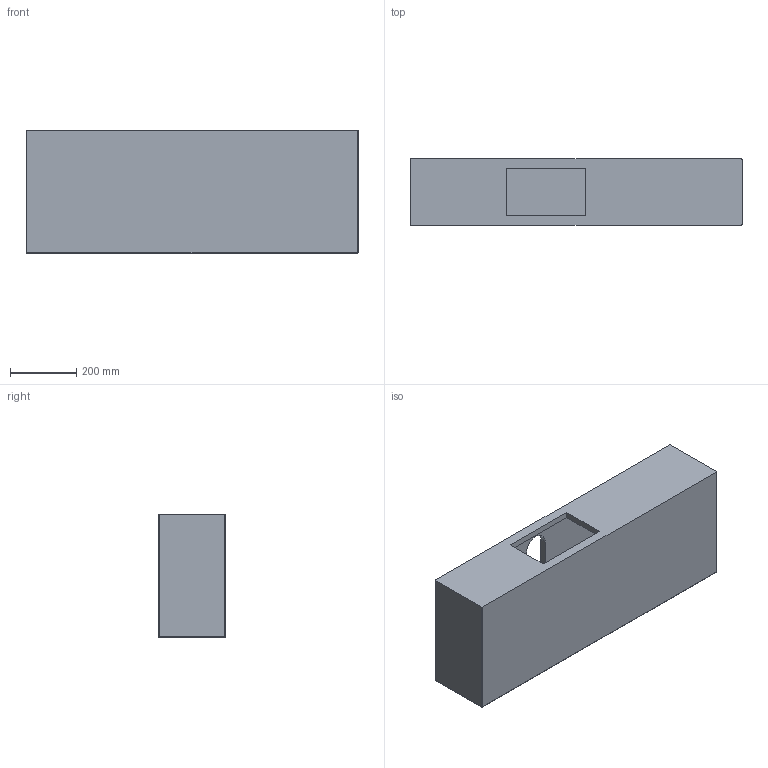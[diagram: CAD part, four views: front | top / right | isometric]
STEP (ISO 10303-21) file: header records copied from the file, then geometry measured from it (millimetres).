
FILE_DESCRIPTION(('CATIA V5 STEP Exchange'),'2;1');
FILE_NAME('C:\Users\Luca\Downloads\mobili next\7535\3D_7535.stp','2023-01-31T14:20:06+00:00',('none'),('none'),'CATIA Version 5 Release 19 SP 5 (IN-10)','CATIA V5 STEP AP214','none');
FILE_SCHEMA(('AUTOMOTIVE_DESIGN { 1 0 10303 214 1 1 1 1 }'));
Length unit declared in the file: millimetre
Products named in the file (1): ART. 7535
Bounding box: 1000 x 200 x 370 mm (x, y, z)
Volume: 20473571.1 mm3; surface area: 2320530.9 mm2
Topology: 2 solids, 2 shells, 113 faces, 262 edges, 142 vertices
Faces by surface type: cylinder 44, plane 31, bspline 20, sphere 16, torus 2
Entity records: 4315 total; most frequent: CARTESIAN_POINT 2021, ORIENTED_EDGE 500, DIRECTION 372, EDGE_CURVE 250, AXIS2_PLACEMENT_3D 172, VERTEX_POINT 142, EDGE_LOOP 118, ADVANCED_FACE 113
